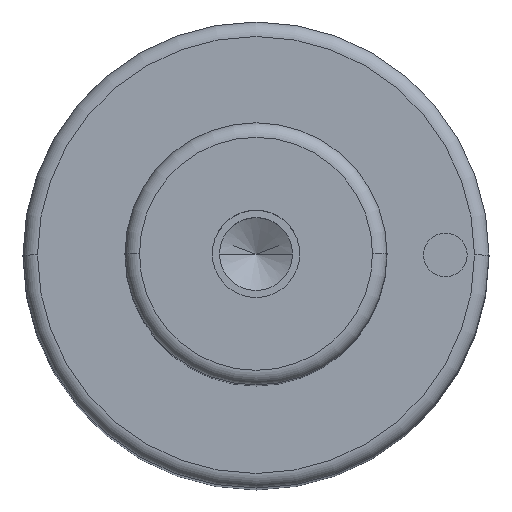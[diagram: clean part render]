
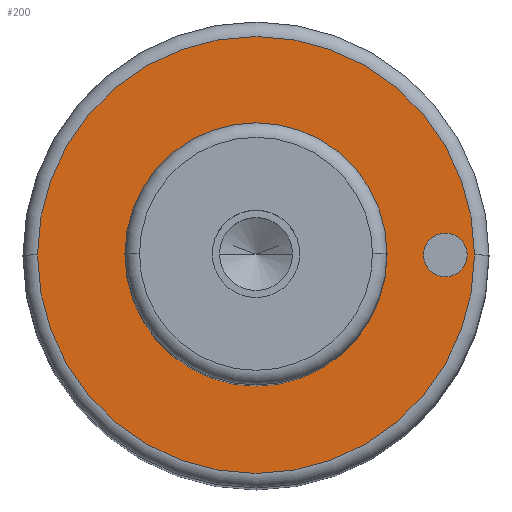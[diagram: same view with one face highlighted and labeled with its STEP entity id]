
A CAD part, top view. The second image highlights one B-rep face of the part: STEP entity #200.
In plain terms, the highlighted planar face has unit normal (0, 0, 1).
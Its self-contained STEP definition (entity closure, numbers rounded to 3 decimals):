
#99=PLANE('',#596);
#107=FACE_BOUND('',#265,.T.);
#108=FACE_BOUND('',#266,.T.);
#109=FACE_BOUND('',#267,.T.);
#200=ADVANCED_FACE('',(#107,#108,#109),#99,.T.);
#265=EDGE_LOOP('',(#359,#360));
#266=EDGE_LOOP('',(#361,#362));
#267=EDGE_LOOP('',(#363,#364));
#359=ORIENTED_EDGE('',*,*,#460,.F.);
#360=ORIENTED_EDGE('',*,*,#461,.F.);
#361=ORIENTED_EDGE('',*,*,#485,.F.);
#362=ORIENTED_EDGE('',*,*,#486,.F.);
#363=ORIENTED_EDGE('',*,*,#456,.T.);
#364=ORIENTED_EDGE('',*,*,#454,.T.);
#411=VERTEX_POINT('',#808);
#412=VERTEX_POINT('',#810);
#413=VERTEX_POINT('',#816);
#416=VERTEX_POINT('',#821);
#430=VERTEX_POINT('',#875);
#431=VERTEX_POINT('',#876);
#454=EDGE_CURVE('',#412,#411,#513,.T.);
#456=EDGE_CURVE('',#411,#412,#514,.T.);
#460=EDGE_CURVE('',#416,#413,#518,.T.);
#461=EDGE_CURVE('',#413,#416,#519,.T.);
#485=EDGE_CURVE('',#430,#431,#533,.T.);
#486=EDGE_CURVE('',#431,#430,#534,.T.);
#513=CIRCLE('',#558,9.);
#514=CIRCLE('',#560,9.);
#518=CIRCLE('',#565,15.);
#519=CIRCLE('',#567,15.);
#533=CIRCLE('',#594,1.5);
#534=CIRCLE('',#595,1.5);
#558=AXIS2_PLACEMENT_3D('',#809,#647,#648);
#560=AXIS2_PLACEMENT_3D('',#813,#652,#653);
#565=AXIS2_PLACEMENT_3D('',#822,#662,#663);
#567=AXIS2_PLACEMENT_3D('',#824,#666,#667);
#594=AXIS2_PLACEMENT_3D('',#874,#730,#731);
#595=AXIS2_PLACEMENT_3D('',#877,#732,#733);
#596=AXIS2_PLACEMENT_3D('',#878,#734,#735);
#647=DIRECTION('',(0.,0.,-1.));
#648=DIRECTION('',(0.,1.,0.));
#652=DIRECTION('',(0.,0.,-1.));
#653=DIRECTION('',(0.,-1.,0.));
#662=DIRECTION('',(0.,0.,-1.));
#663=DIRECTION('',(0.,1.,0.));
#666=DIRECTION('',(0.,0.,-1.));
#667=DIRECTION('',(0.,-1.,0.));
#730=DIRECTION('',(0.,0.,1.));
#731=DIRECTION('',(0.,1.,0.));
#732=DIRECTION('',(0.,0.,1.));
#733=DIRECTION('',(0.,-1.,0.));
#734=DIRECTION('',(0.,0.,1.));
#735=DIRECTION('',(0.,-1.,0.));
#808=CARTESIAN_POINT('',(-9.,0.,79.));
#809=CARTESIAN_POINT('',(0.,0.,79.));
#810=CARTESIAN_POINT('',(9.,0.,79.));
#813=CARTESIAN_POINT('',(0.,0.,79.));
#816=CARTESIAN_POINT('',(-15.,0.,79.));
#821=CARTESIAN_POINT('',(15.,0.,79.));
#822=CARTESIAN_POINT('',(0.,0.,79.));
#824=CARTESIAN_POINT('',(0.,0.,79.));
#874=CARTESIAN_POINT('',(13.,0.,79.));
#875=CARTESIAN_POINT('',(11.5,0.,79.));
#876=CARTESIAN_POINT('',(14.5,0.,79.));
#877=CARTESIAN_POINT('',(13.,0.,79.));
#878=CARTESIAN_POINT('',(0.,0.,79.));
